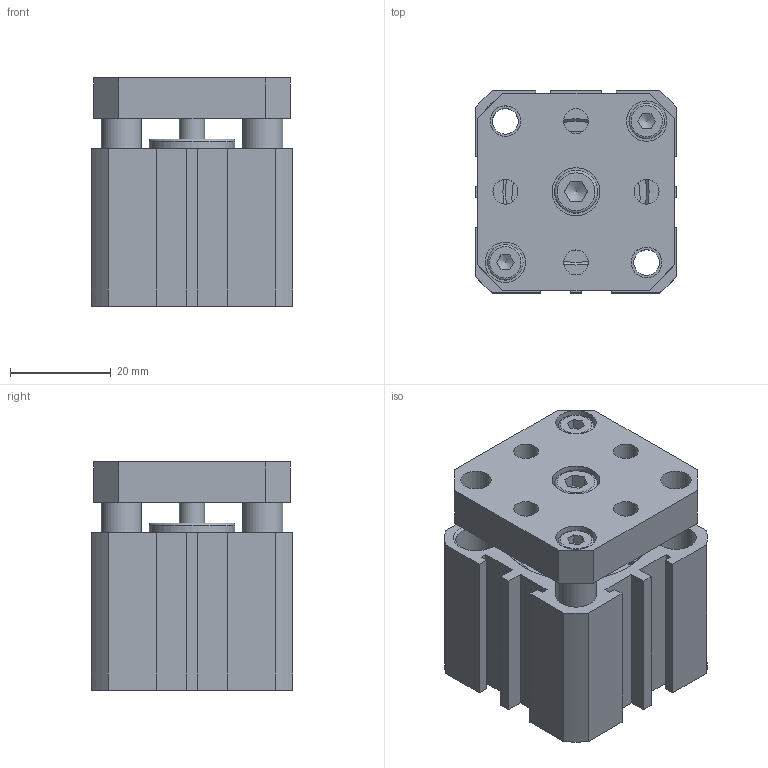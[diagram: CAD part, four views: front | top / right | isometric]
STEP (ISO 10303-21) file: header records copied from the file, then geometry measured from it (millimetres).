
FILE_DESCRIPTION((''),'2;1');
FILE_NAME('I:\3D電子目錄\氣缸\JTD\JTD\JTD25\JTD25x10.stp','2007-08-09T20:06:07',('Administrator'),(''),'Autodesk Inventor 11','Autodesk Inventor 11','');
FILE_SCHEMA(('AUTOMOTIVE_DESIGN { 1 0 10303 214 1 1 1 1 }'));
Length unit declared in the file: millimetre
Products named in the file (5): JTD25; R 形環 28; ISO 4762 M5 x 10; ISO 4762 M4 x 10
Assembly tree (6 placements, depth 2):
  JTD25
    JTD25
    R 形環 28  x2
    ISO 4762 M5 x 10
    ISO 4762 M4 x 10  x2
Bounding box: 40 x 40 x 45.2 mm (x, y, z)
Volume: 49177.6 mm3; surface area: 21266.9 mm2
Topology: 6 solids, 6 shells, 199 faces, 461 edges, 302 vertices
Faces by surface type: plane 111, cylinder 52, bspline 19, cone 12, torus 5
Full cylindrical faces by diameter (mm): 1.5 x2, 1.9 x4, 4 x2, 5 x1, 5.1 x2, 6 x2, 6.039 x2, 6.5 x2, 7 x2, 8 x6, 8.5 x1, 17 x2, 28 x4, 29.4 x2
Entity records: 5011 total; most frequent: CARTESIAN_POINT 1111, DIRECTION 778, ORIENTED_EDGE 676, EDGE_CURVE 338, AXIS2_PLACEMENT_3D 287, EDGE_LOOP 286, VERTEX_POINT 258, VECTOR 204
